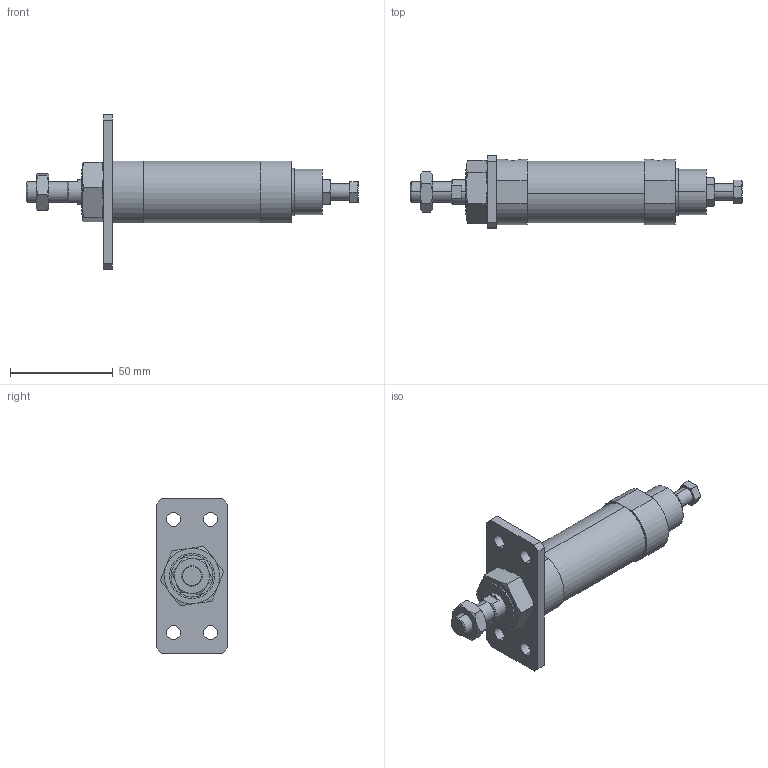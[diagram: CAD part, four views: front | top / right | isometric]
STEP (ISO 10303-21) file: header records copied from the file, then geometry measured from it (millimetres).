
FILE_DESCRIPTION (( 'STEP AP203' ), '1' );
FILE_NAME ('JGA2-25-25-A.STEP', '2016-04-20T05:06:03', ( '' ), ( '' ), 'SwSTEP 2.0', 'SolidWorks 2014', '' );
FILE_SCHEMA (( 'CONFIG_CONTROL_DESIGN' ));
Length unit declared in the file: millimetre
Products named in the file (7): 25-25; JGA2-25-25-A; J#2-25-A; M10x1.5-6mm; JGA2-25A; M22x1.5-10mm; JGLH2-25B
Assembly tree (6 placements, depth 2):
  JGA2-25-25-A
    JGLH2-25B
    25-25
    JGA2-25A
    M10x1.5-6mm
    M22x1.5-10mm
    J#2-25-A
Bounding box: 161.5 x 35 x 75 mm (x, y, z)
Volume: 89950.2 mm3; surface area: 26437.4 mm2
Topology: 6 solids, 6 shells, 144 faces, 326 edges, 200 vertices
Faces by surface type: plane 62, cylinder 38, torus 36, cone 8
Entity records: 5223 total; most frequent: CARTESIAN_POINT 1319, DIRECTION 664, ORIENTED_EDGE 644, EDGE_CURVE 322, AXIS2_PLACEMENT_3D 269, VERTEX_POINT 200, EDGE_LOOP 168, ADVANCED_FACE 144
